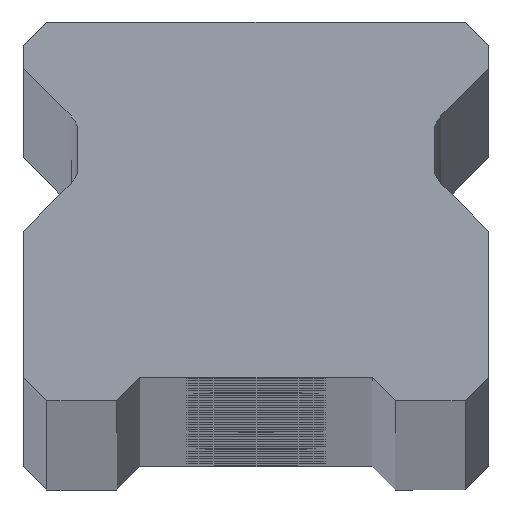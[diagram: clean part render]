
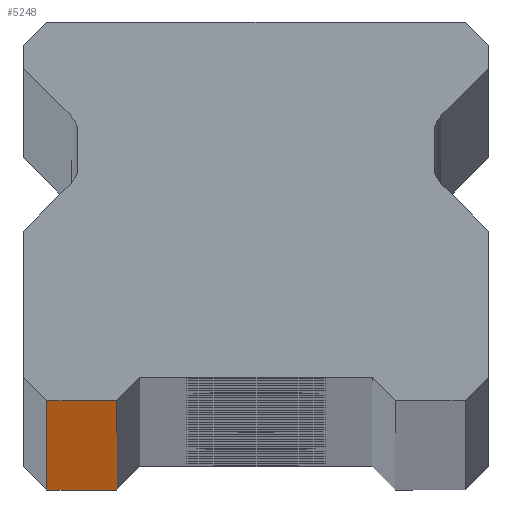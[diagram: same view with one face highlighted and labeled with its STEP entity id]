
A CAD part, top view. The second image highlights one B-rep face of the part: STEP entity #5248.
In plain terms, the highlighted planar face has unit normal (0, -1, 0).
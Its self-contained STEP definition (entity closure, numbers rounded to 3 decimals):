
#62 = VECTOR ( 'NONE', #1657, 1000. ) ;
#458 = VECTOR ( 'NONE', #4067, 1000. ) ;
#625 = CARTESIAN_POINT ( 'NONE',  ( 10., 0., -1100. ) ) ;
#1400 = CARTESIAN_POINT ( 'NONE',  ( -6., 0., -1100. ) ) ;
#1608 = ORIENTED_EDGE ( 'NONE', *, *, #4155, .T. ) ;
#1657 = DIRECTION ( 'NONE',  ( 1., 0., 0. ) ) ;
#1677 = EDGE_CURVE ( 'NONE', #5084, #4330, #5488, .T. ) ;
#1697 = CARTESIAN_POINT ( 'NONE',  ( -9., 0., -1100. ) ) ;
#1887 = DIRECTION ( 'NONE',  ( -1., 0., 0. ) ) ;
#2172 = DIRECTION ( 'NONE',  ( 0., 0., 1. ) ) ;
#2243 = CARTESIAN_POINT ( 'NONE',  ( -6., 0., 1100. ) ) ;
#2664 = ORIENTED_EDGE ( 'NONE', *, *, #1677, .T. ) ;
#2767 = EDGE_CURVE ( 'NONE', #4502, #5084, #4102, .T. ) ;
#2849 = ORIENTED_EDGE ( 'NONE', *, *, #2767, .T. ) ;
#3141 = VECTOR ( 'NONE', #2172, 1000. ) ;
#3173 = CARTESIAN_POINT ( 'NONE',  ( -6., 0., -1100. ) ) ;
#3213 = CARTESIAN_POINT ( 'NONE',  ( 10., 0., 1100. ) ) ;
#3312 = EDGE_CURVE ( 'NONE', #4502, #5985, #5848, .T. ) ;
#3348 = DIRECTION ( 'NONE',  ( 0., 1., 0. ) ) ;
#3516 = ORIENTED_EDGE ( 'NONE', *, *, #3312, .F. ) ;
#3662 = EDGE_LOOP ( 'NONE', ( #2664, #1608, #3516, #2849 ) ) ;
#3892 = DIRECTION ( 'NONE',  ( 1., 0., 0. ) ) ;
#4067 = DIRECTION ( 'NONE',  ( 0., 0., -1. ) ) ;
#4102 = LINE ( 'NONE', #5577, #458 ) ;
#4155 = EDGE_CURVE ( 'NONE', #4330, #5985, #6017, .T. ) ;
#4330 = VERTEX_POINT ( 'NONE', #1400 ) ;
#4500 = VECTOR ( 'NONE', #3892, 1000. ) ;
#4502 = VERTEX_POINT ( 'NONE', #5447 ) ;
#4875 = CARTESIAN_POINT ( 'NONE',  ( 10., 0., 1100. ) ) ;
#5084 = VERTEX_POINT ( 'NONE', #1697 ) ;
#5120 = FACE_OUTER_BOUND ( 'NONE', #3662, .T. ) ;
#5248 = ADVANCED_FACE ( 'NONE', ( #5120 ), #6383, .F. ) ;
#5447 = CARTESIAN_POINT ( 'NONE',  ( -9., 0., 1100. ) ) ;
#5488 = LINE ( 'NONE', #625, #62 ) ;
#5577 = CARTESIAN_POINT ( 'NONE',  ( -9., 0., 1100. ) ) ;
#5848 = LINE ( 'NONE', #3213, #4500 ) ;
#5985 = VERTEX_POINT ( 'NONE', #2243 ) ;
#6017 = LINE ( 'NONE', #3173, #3141 ) ;
#6335 = AXIS2_PLACEMENT_3D ( 'NONE', #4875, #3348, #1887 ) ;
#6383 = PLANE ( 'NONE',  #6335 ) ;
